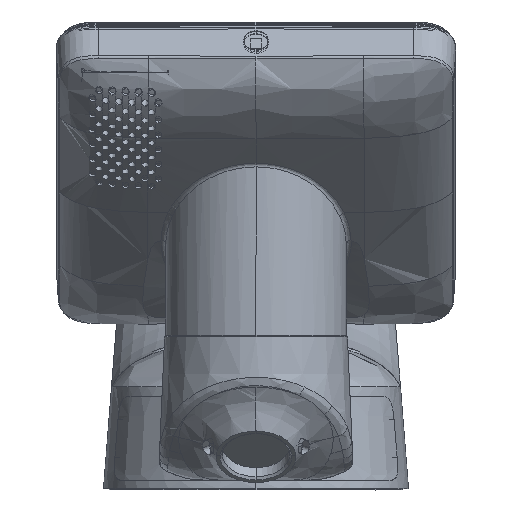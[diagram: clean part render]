
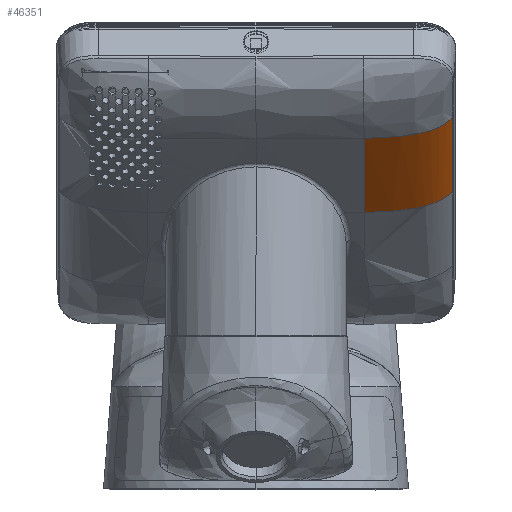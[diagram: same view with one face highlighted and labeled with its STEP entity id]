
A CAD part, front view. The second image highlights one B-rep face of the part: STEP entity #46351.
In plain terms, the highlighted free-form (B-spline) face has degree [3, 1] with [7, 2] control points.
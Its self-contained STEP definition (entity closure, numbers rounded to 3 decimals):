
#453 = VECTOR ( 'NONE', #52487, 1000. ) ;
#10901 = CARTESIAN_POINT ( 'NONE',  ( -219.038, -264.528, 874.764 ) ) ;
#13382 = CARTESIAN_POINT ( 'NONE',  ( -223.734, -265.25, 874.17 ) ) ;
#14356 = CARTESIAN_POINT ( 'NONE',  ( -227.936, -246.52, 858.149 ) ) ;
#24804 = B_SPLINE_CURVE_WITH_KNOTS ( 'NONE', 3,
 ( #31574, #48828, #210408, #33712, #145833, #14356, #165197 ),
 .UNSPECIFIED., .F., .F.,
 ( 4, 1, 1, 1, 4 ),
 ( 0., 0.23, 0.487, 0.743, 1. ),
 .UNSPECIFIED. ) ;
#24961 = CARTESIAN_POINT ( 'NONE',  ( -218.677, -264.465, 874.837 ) ) ;
#25998 = CARTESIAN_POINT ( 'NONE',  ( -223.473, -265.046, 874.165 ) ) ;
#27601 = VERTEX_POINT ( 'NONE', #199689 ) ;
#28460 = EDGE_LOOP ( 'NONE', ( #86505, #207509, #195193, #126017 ) ) ;
#31574 = CARTESIAN_POINT ( 'NONE',  ( -211.387, -242.733, 862.661 ) ) ;
#33712 = CARTESIAN_POINT ( 'NONE',  ( -218.479, -245.804, 859.001 ) ) ;
#36327 = LINE ( 'NONE', #121383, #453 ) ;
#40079 = CARTESIAN_POINT ( 'NONE',  ( -218.63, -264.457, 874.847 ) ) ;
#41127 = CARTESIAN_POINT ( 'NONE',  ( -218.827, -264.492, 874.806 ) ) ;
#41730 = CARTESIAN_POINT ( 'NONE',  ( -218.479, -245.804, 859.001 ) ) ;
#42163 = CARTESIAN_POINT ( 'NONE',  ( -212.148, -262.1, 877.62 ) ) ;
#43217 = CARTESIAN_POINT ( 'NONE',  ( -211.736, -261.783, 877.994 ) ) ;
#46351 = ADVANCED_FACE ( 'NONE', ( #58914 ), #139439, .F. ) ;
#48828 = CARTESIAN_POINT ( 'NONE',  ( -212.194, -243.474, 861.778 ) ) ;
#52487 = DIRECTION ( 'NONE',  ( 0., -0.766, 0.643 ) ) ;
#55159 = CARTESIAN_POINT ( 'NONE',  ( -218.647, -264.46, 874.844 ) ) ;
#56204 = CARTESIAN_POINT ( 'NONE',  ( -214.332, -263.266, 876.246 ) ) ;
#58306 = CARTESIAN_POINT ( 'NONE',  ( -213.651, -262.98, 876.583 ) ) ;
#58914 = FACE_OUTER_BOUND ( 'NONE', #28460, .T. ) ;
#62906 = CARTESIAN_POINT ( 'NONE',  ( -212.142, -262.324, 877.658 ) ) ;
#67436 = CARTESIAN_POINT ( 'NONE',  ( -230.275, -265.335, 873.841 ) ) ;
#72369 = CARTESIAN_POINT ( 'NONE',  ( -218.722, -264.473, 874.828 ) ) ;
#73429 = CARTESIAN_POINT ( 'NONE',  ( -226.385, -265.216, 873.973 ) ) ;
#74467 = CARTESIAN_POINT ( 'NONE',  ( -214.516, -263.341, 876.157 ) ) ;
#83985 = B_SPLINE_CURVE_WITH_KNOTS ( 'NONE', 3,
 ( #206975, #173626, #156417, #73429, #190806, #25998, #139205, #141309, #158528, #123019, #105773, #188707, #10901, #41127, #72369, #24961, #55159, #40079, #157470, #125104, #106829, #91678, #124063, #172588, #187644, #74467, #138167, #56204, #140261, #205919, #58306, #189757, #42163, #43217, #137107 ),
 .UNSPECIFIED., .F., .F.,
 ( 4, 2, 2, 2, 2, 2, 1, 1, 1, 2, 2, 2, 2, 2, 1, 1, 2, 2, 2, 4 ),
 ( 0., 0.125, 0.25, 0.375, 0.438, 0.469, 0.484, 0.492, 0.496, 0.498, 0.5, 0.625, 0.687, 0.719, 0.734, 0.742, 0.746, 0.75, 0.875, 1. ),
 .UNSPECIFIED. ) ;
#86505 = ORIENTED_EDGE ( 'NONE', *, *, #94675, .F. ) ;
#91487 = VERTEX_POINT ( 'NONE', #164397 ) ;
#91678 = CARTESIAN_POINT ( 'NONE',  ( -215.51, -263.701, 875.733 ) ) ;
#94675 = EDGE_CURVE ( 'NONE', #112989, #27601, #83985, .T. ) ;
#105773 = CARTESIAN_POINT ( 'NONE',  ( -219.582, -264.615, 874.663 ) ) ;
#106379 = CARTESIAN_POINT ( 'NONE',  ( -218.479, -264.685, 874.844 ) ) ;
#106829 = CARTESIAN_POINT ( 'NONE',  ( -215.856, -263.809, 875.606 ) ) ;
#107440 = CARTESIAN_POINT ( 'NONE',  ( -227.936, -265.4, 873.991 ) ) ;
#107805 = CARTESIAN_POINT ( 'NONE',  ( -211.386, -261.461, 878.376 ) ) ;
#109927 = CARTESIAN_POINT ( 'NONE',  ( -211.387, -242.733, 862.661 ) ) ;
#112989 = VERTEX_POINT ( 'NONE', #67436 ) ;
#121383 = CARTESIAN_POINT ( 'NONE',  ( -230.275, -246.567, 858.092 ) ) ;
#121519 = CARTESIAN_POINT ( 'NONE',  ( -227.936, -246.52, 858.149 ) ) ;
#123019 = CARTESIAN_POINT ( 'NONE',  ( -219.824, -264.651, 874.621 ) ) ;
#124063 = CARTESIAN_POINT ( 'NONE',  ( -215.02, -263.531, 875.933 ) ) ;
#124674 = CARTESIAN_POINT ( 'NONE',  ( -211.323, -261.555, 878.574 ) ) ;
#125104 = CARTESIAN_POINT ( 'NONE',  ( -216.947, -264.116, 875.245 ) ) ;
#126017 = ORIENTED_EDGE ( 'NONE', *, *, #167959, .F. ) ;
#137107 = CARTESIAN_POINT ( 'NONE',  ( -211.386, -261.461, 878.376 ) ) ;
#138167 = CARTESIAN_POINT ( 'NONE',  ( -214.387, -263.289, 876.219 ) ) ;
#139205 = CARTESIAN_POINT ( 'NONE',  ( -222.5, -264.968, 874.254 ) ) ;
#139439 = B_SPLINE_SURFACE_WITH_KNOTS ( 'NONE', 3, 1, ( 
 ( #144856, #124674 ),
 ( #157021, #62906 ),
 ( #161018, #189315 ),
 ( #41730, #106379 ),
 ( #178222, #13382 ),
 ( #121519, #107440 ),
 ( #194353, #172141 ) ),
 .UNSPECIFIED., .F., .F., .F.,
 ( 4, 1, 1, 1, 4 ),
 ( 2, 2 ),
 ( 0.005, 0.237, 0.489, 0.741, 0.993 ),
 ( 0., 1. ),
 .UNSPECIFIED. ) ;
#140261 = CARTESIAN_POINT ( 'NONE',  ( -214.295, -263.251, 876.264 ) ) ;
#141283 = EDGE_CURVE ( 'NONE', #91487, #166544, #24804, .T. ) ;
#141309 = CARTESIAN_POINT ( 'NONE',  ( -221.039, -264.811, 874.435 ) ) ;
#144856 = CARTESIAN_POINT ( 'NONE',  ( -211.323, -242.675, 862.731 ) ) ;
#145833 = CARTESIAN_POINT ( 'NONE',  ( -223.734, -246.369, 858.328 ) ) ;
#156417 = CARTESIAN_POINT ( 'NONE',  ( -228.328, -265.288, 873.893 ) ) ;
#157021 = CARTESIAN_POINT ( 'NONE',  ( -212.142, -243.443, 861.815 ) ) ;
#157470 = CARTESIAN_POINT ( 'NONE',  ( -217.749, -264.298, 875.032 ) ) ;
#158528 = CARTESIAN_POINT ( 'NONE',  ( -220.552, -264.752, 874.503 ) ) ;
#161018 = CARTESIAN_POINT ( 'NONE',  ( -214.265, -244.698, 860.319 ) ) ;
#164397 = CARTESIAN_POINT ( 'NONE',  ( -211.387, -242.733, 862.661 ) ) ;
#165197 = CARTESIAN_POINT ( 'NONE',  ( -230.275, -246.567, 858.092 ) ) ;
#166544 = VERTEX_POINT ( 'NONE', #175626 ) ;
#167959 = EDGE_CURVE ( 'NONE', #27601, #91487, #197956, .T. ) ;
#172141 = CARTESIAN_POINT ( 'NONE',  ( -230.275, -265.447, 873.935 ) ) ;
#172588 = CARTESIAN_POINT ( 'NONE',  ( -214.861, -263.474, 876.001 ) ) ;
#173626 = CARTESIAN_POINT ( 'NONE',  ( -229.301, -265.314, 873.863 ) ) ;
#174620 = CARTESIAN_POINT ( 'NONE',  ( -211.386, -255.218, 873.138 ) ) ;
#175626 = CARTESIAN_POINT ( 'NONE',  ( -230.275, -246.567, 858.092 ) ) ;
#178222 = CARTESIAN_POINT ( 'NONE',  ( -223.734, -246.369, 858.328 ) ) ;
#187644 = CARTESIAN_POINT ( 'NONE',  ( -214.63, -263.386, 876.105 ) ) ;
#188707 = CARTESIAN_POINT ( 'NONE',  ( -219.219, -264.557, 874.73 ) ) ;
#189315 = CARTESIAN_POINT ( 'NONE',  ( -214.265, -263.579, 876.162 ) ) ;
#189757 = CARTESIAN_POINT ( 'NONE',  ( -213.106, -262.699, 876.915 ) ) ;
#190806 = CARTESIAN_POINT ( 'NONE',  ( -225.415, -265.17, 874.025 ) ) ;
#191803 = CARTESIAN_POINT ( 'NONE',  ( -211.387, -248.976, 867.899 ) ) ;
#194353 = CARTESIAN_POINT ( 'NONE',  ( -230.275, -246.567, 858.092 ) ) ;
#195193 = ORIENTED_EDGE ( 'NONE', *, *, #141283, .F. ) ;
#197956 = B_SPLINE_CURVE_WITH_KNOTS ( 'NONE', 3,
 ( #107805, #174620, #191803, #109927 ),
 .UNSPECIFIED., .F., .F.,
 ( 4, 4 ),
 ( 0., 1. ),
 .UNSPECIFIED. ) ;
#199689 = CARTESIAN_POINT ( 'NONE',  ( -211.386, -261.461, 878.376 ) ) ;
#200538 = EDGE_CURVE ( 'NONE', #166544, #112989, #36327, .T. ) ;
#205919 = CARTESIAN_POINT ( 'NONE',  ( -214.278, -263.244, 876.272 ) ) ;
#206975 = CARTESIAN_POINT ( 'NONE',  ( -230.275, -265.335, 873.841 ) ) ;
#207509 = ORIENTED_EDGE ( 'NONE', *, *, #200538, .F. ) ;
#210408 = CARTESIAN_POINT ( 'NONE',  ( -214.299, -244.707, 860.308 ) ) ;
